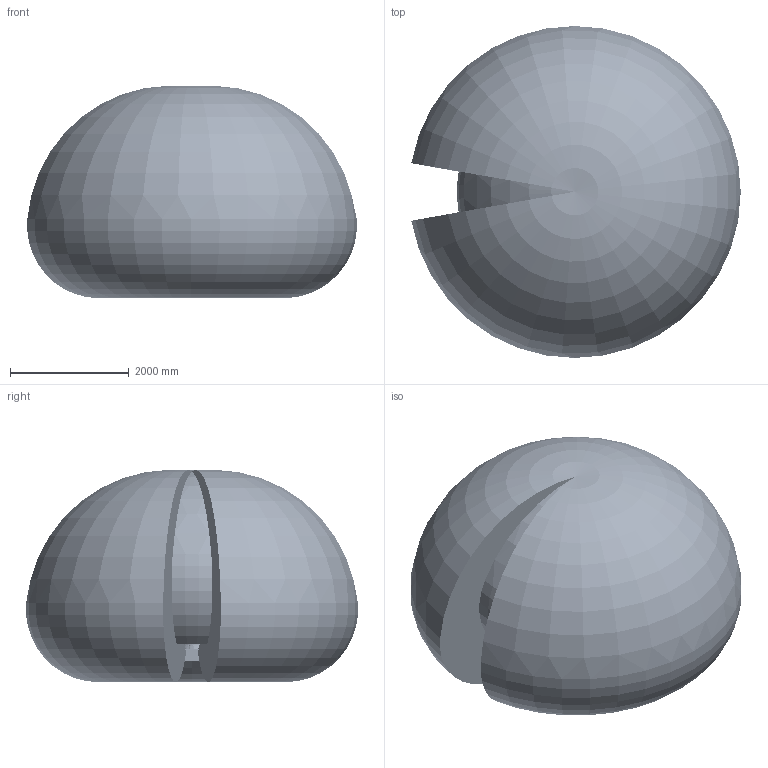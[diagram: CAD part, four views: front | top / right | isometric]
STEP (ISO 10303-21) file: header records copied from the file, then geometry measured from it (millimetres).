
FILE_DESCRIPTION (( 'STEP AP214' ), '1' );
FILE_NAME ('IRB6740-LID-MH_270kg-280_OC_02_ASM_CAD.step', '2026-05-07T13:14:41', ( '' ), ( '' ), 'SwSTEP 2.0', 'SolidWorks 2024', '' );
FILE_SCHEMA (( 'AUTOMOTIVE_DESIGN' ));
Length unit declared in the file: millimetre
Products named in the file (20): IRB6740-LID_270kg-280_OC_00_LINK02m_CABLE; IRB6740-LID-MH_270kg-280_OC_00_LINK03a_CABLE; IRB6740-LID_270kg-280_OC_02_LINK05_CAD; IRB6740-LID_270kg-280_OC_00_LINK03m_CABLE; IRB6740-LID_270kg-280_OC_00_LINK01m_CABLE; IRB6740-LID_270kg-280_OC_00_BASE_CAD; IRB6740-LID_270kg-280_OC_00_LINK02_CAD; IRB6740-LID_270kg-280_OC_00_LINK04_CABLE; IRB6740-LID_270kg-280_OC_00_Working-space; IRB6740-LID_270kg-280_OC_00_LINK03_CAD; IRB6740-LID_270kg-280_OC_00_CYL_CAD; IRB6740-LID-MH_270kg-280_OC_00_LINK01_CABLE; IRB6740-LID_270kg-280_OC_00_LINK05_CABLE; IRB6740-LID-MH_270kg-280_OC_00_LINK02_CABLE; IRB6740-LID_270kg-280_OC_00_LINK04_CAD; IRB6740-LID_270kg-280_OC_00_ROD_CAD; IRB6740-LID-MH_270kg-280_OC_00_LINK03b_CABLE; IRB6740-LID_270kg-280_OC_00_LINK01_CAD; IRB6740-LID_270kg-280_OC_02_LINK06_CABLE; IRB6740-LID-MH_270kg-280_OC_02_ASM_CAD
Assembly tree (19 placements, depth 2):
  IRB6740-LID-MH_270kg-280_OC_02_ASM_CAD
    IRB6740-LID_270kg-280_OC_00_BASE_CAD
    IRB6740-LID_270kg-280_OC_00_CYL_CAD
    IRB6740-LID_270kg-280_OC_00_LINK01_CAD
    IRB6740-LID_270kg-280_OC_00_LINK02_CAD
    IRB6740-LID_270kg-280_OC_00_LINK03_CAD
    IRB6740-LID_270kg-280_OC_00_LINK04_CAD
    IRB6740-LID_270kg-280_OC_00_ROD_CAD
    IRB6740-LID_270kg-280_OC_00_LINK01m_CABLE
    IRB6740-LID_270kg-280_OC_00_LINK02m_CABLE
    IRB6740-LID_270kg-280_OC_00_LINK03m_CABLE
    IRB6740-LID-MH_270kg-280_OC_00_LINK01_CABLE
    IRB6740-LID-MH_270kg-280_OC_00_LINK02_CABLE
    IRB6740-LID-MH_270kg-280_OC_00_LINK03a_CABLE
    IRB6740-LID-MH_270kg-280_OC_00_LINK03b_CABLE
    IRB6740-LID_270kg-280_OC_00_LINK04_CABLE
    IRB6740-LID_270kg-280_OC_00_LINK05_CABLE
    IRB6740-LID_270kg-280_OC_00_Working-space
    IRB6740-LID_270kg-280_OC_02_LINK05_CAD
    IRB6740-LID_270kg-280_OC_02_LINK06_CABLE
Bounding box: 5548.68 x 5591.15 x 3575.4 mm (x, y, z)
Volume: 58200920971 mm3; surface area: 115269205.2 mm2
Topology: 21 solids, 58 shells, 8689 faces, 22313 edges, 14415 vertices
Faces by surface type: plane 4797, cylinder 1880, cone 992, bspline 676, torus 300, sphere 44
Full cylindrical faces by diameter (mm): 0.1 x1, 2.5 x1, 3.3 x2, 4 x2, 4.4 x2, 5 x23, 5.2 x4, 5.45 x1, 6 x6, 6.5 x2, 6.6 x4, 6.8 x24, 7 x14, 7.5 x1, 8 x4, 8.3 x2, 8.5 x21, 8.8 x2, 9.5 x4, 9.8 x4, 9.9 x2, 10 x26, 10.2 x17, 10.22 x8, 10.5 x10, 11 x6, 11.05 x2, 11.8 x4, 12 x42, 13 x41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
Entity records: 450926 total; most frequent: CARTESIAN_POINT 163336, ORIENTED_EDGE 40718, DIRECTION 36746, EDGE_CURVE 20359, VERTEX_POINT 13825, AXIS2_PLACEMENT_3D 13348, EDGE_LOOP 10922, VECTOR 10050
